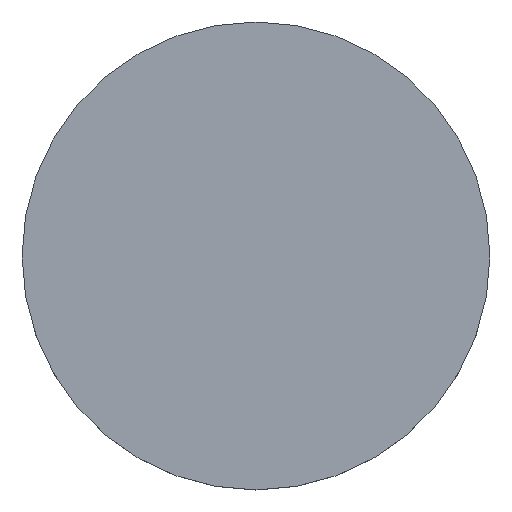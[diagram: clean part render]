
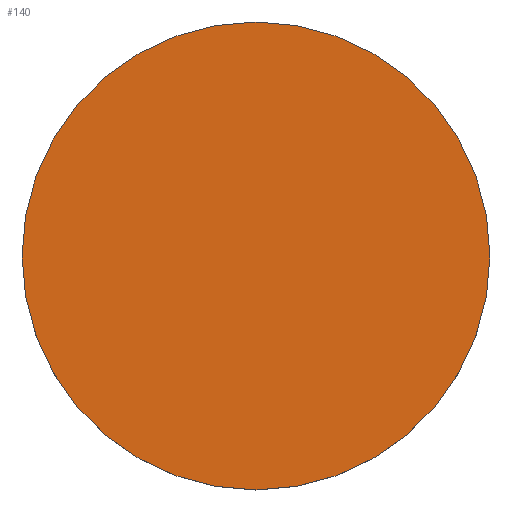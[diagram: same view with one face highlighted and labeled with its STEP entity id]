
A CAD part, top view. The second image highlights one B-rep face of the part: STEP entity #140.
In plain terms, the highlighted planar face has unit normal (0, 0, 1).
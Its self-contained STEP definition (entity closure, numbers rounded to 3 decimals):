
#24 = VERTEX_POINT('',#25);
#25 = CARTESIAN_POINT('',(2.,0.,4.01));
#32 = CYLINDRICAL_SURFACE('',#33,2.);
#33 = AXIS2_PLACEMENT_3D('',#34,#35,#36);
#34 = CARTESIAN_POINT('',(0.,0.,3.56));
#35 = DIRECTION('',(-0.,-0.,-1.));
#36 = DIRECTION('',(1.,0.,0.));
#51 = EDGE_CURVE('',#24,#24,#52,.T.);
#52 = SURFACE_CURVE('',#53,(#58,#65),.PCURVE_S1.);
#53 = CIRCLE('',#54,2.);
#54 = AXIS2_PLACEMENT_3D('',#55,#56,#57);
#55 = CARTESIAN_POINT('',(0.,0.,4.01));
#56 = DIRECTION('',(0.,0.,1.));
#57 = DIRECTION('',(1.,0.,0.));
#58 = PCURVE('',#32,#59);
#59 = DEFINITIONAL_REPRESENTATION('',(#60),#64);
#60 = LINE('',#61,#62);
#61 = CARTESIAN_POINT('',(-0.,-0.45));
#62 = VECTOR('',#63,1.);
#63 = DIRECTION('',(-1.,0.));
#64 = ( GEOMETRIC_REPRESENTATION_CONTEXT(2) 
PARAMETRIC_REPRESENTATION_CONTEXT() REPRESENTATION_CONTEXT('2D SPACE',''
  ) );
#65 = PCURVE('',#66,#71);
#66 = PLANE('',#67);
#67 = AXIS2_PLACEMENT_3D('',#68,#69,#70);
#68 = CARTESIAN_POINT('',(0.,0.,4.01));
#69 = DIRECTION('',(0.,0.,1.));
#70 = DIRECTION('',(1.,0.,-0.));
#71 = DEFINITIONAL_REPRESENTATION('',(#72),#76);
#72 = CIRCLE('',#73,2.);
#73 = AXIS2_PLACEMENT_2D('',#74,#75);
#74 = CARTESIAN_POINT('',(0.,0.));
#75 = DIRECTION('',(1.,0.));
#76 = ( GEOMETRIC_REPRESENTATION_CONTEXT(2) 
PARAMETRIC_REPRESENTATION_CONTEXT() REPRESENTATION_CONTEXT('2D SPACE',''
  ) );
#140 = ADVANCED_FACE('',(#141),#66,.T.);
#141 = FACE_BOUND('',#142,.T.);
#142 = EDGE_LOOP('',(#143));
#143 = ORIENTED_EDGE('',*,*,#51,.T.);
